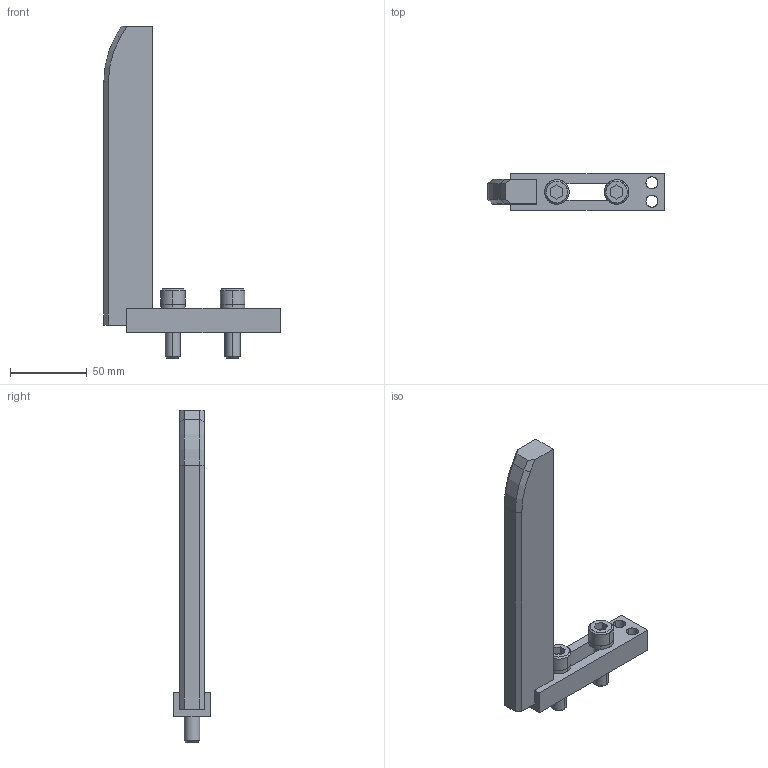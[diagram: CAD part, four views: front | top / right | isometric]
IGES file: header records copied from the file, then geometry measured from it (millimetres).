
Global section: file name: E:\UnigraphicsGraphicData\MISUMI_PRESS-PARTS\IGES\3d_ensta-200-20-m10_01419_r00.igs; native system: NX V5.0; preprocessor: UGS NX IGES V5.0; author: MISUMI; date: 20110105.160620; units: millimetre
Bounding box: 115 x 24 x 216.5 mm (x, y, z)
Surface area: 32530.1 mm2 (no closed solid volume)
Topology: 0 solids, 0 shells, 76 faces, 480 edges, 480 vertices
Faces by surface type: bspline 76
